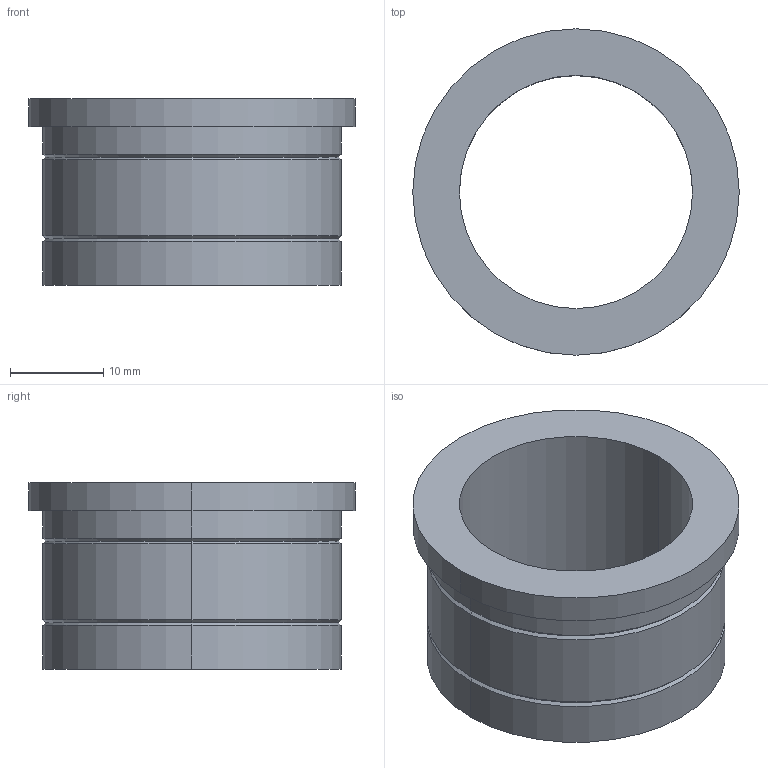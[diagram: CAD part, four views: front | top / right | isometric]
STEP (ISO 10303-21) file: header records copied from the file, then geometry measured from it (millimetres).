
FILE_DESCRIPTION(/* description */ (''),/* implementation_level */ '2;1');
FILE_NAME(/* name */ '3d_sgbt25-20_00019_r00.stp',/* time_stamp */ '2011-01-10T14:11:12+09:00',/* author */ ('MISUMI'),/* organization */ (''),/* preprocessor_version */ 'ST-DEVELOPER v11',/* originating_system */ 'UGS - NX 5.0',/* authorisation */ '');
FILE_SCHEMA (('CONFIG_CONTROL_DESIGN'));
Length unit declared in the file: millimetre
Products named in the file (1): 3d_sgbt25-20_00019_r00
Bounding box: 35 x 35 x 20 mm (x, y, z)
Volume: 6723.1 mm3; surface area: 4600.5 mm2
Topology: 1 solids, 1 shells, 21 faces, 42 edges, 24 vertices
Faces by surface type: cylinder 10, cone 8, plane 3
Entity records: 634 total; most frequent: DIRECTION 110, CARTESIAN_POINT 88, ORIENTED_EDGE 84, AXIS2_PLACEMENT_3D 46, EDGE_CURVE 42, EDGE_LOOP 24, VERTEX_POINT 24, CIRCLE 24
